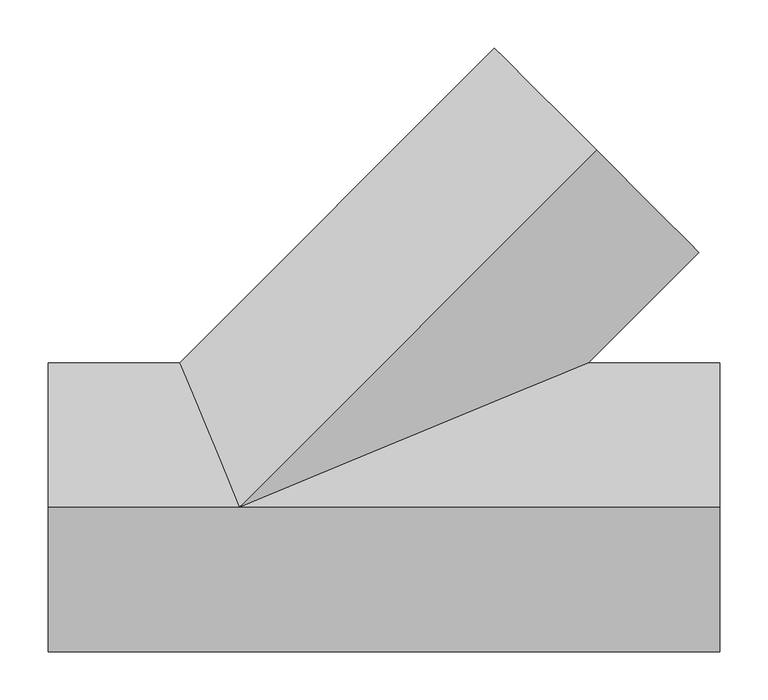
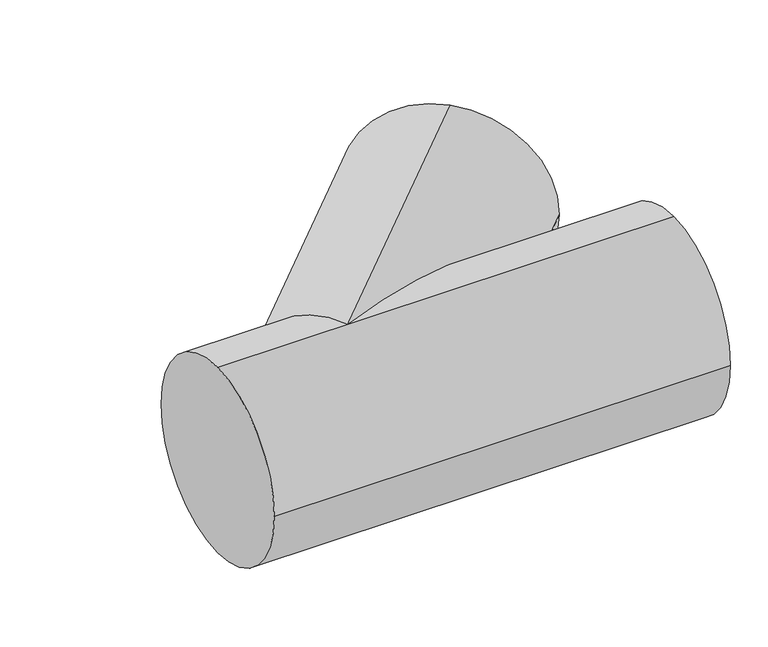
"""IFC4 building model written with IfcOpenShell, lengths in millimetres: duct fitting geometry, BL_ТройникВоздуховодов_Круглый-45 : Фланцевое соединение."""

from ifc_helpers import new_model, si_unit, frame, origin, place, context, project, spatial, circle_curve, ellipse_curve, source, transform, mapped, element, save
from ifc_brep_helpers import plane_surface, cylinder_surface, advanced_brep


def duct_fitting_f7d28258(model_context):
    return source(origin(), model_context, "Body", "AdvancedBrep", [
        advanced_brep(
        [(-348.492424, 0.0, 150.0), (-348.492424, 150.0, 0.0), (-348.492424, 0.0, -150.0), (-348.492424, -150.0, 0.0), (348.492424, 0.0, 150.0), (348.492424, -150.0, 0.0), (348.492424, 0.0, -150.0), (348.492424, 150.0, 0.0), (-150.0, 0.0, 150.0), (-150.0, 0.0, -150.0), (212.1320344, 150.0, 0.0), (-212.1320344, 150.0, 0.0), (220.7106781, 370.7106781, 150.0), (326.7766953, 264.6446609, 0.0), (220.7106781, 370.7106781, -150.0), (114.6446609, 476.7766953, 0.0)],
        [
            (0, 1, circle_curve(frame((-348.492424, 0.0, 0.0), z_axis=(-1.0, 0.0, 0.0), x_axis=(0.0, -1.0, 0.0)), 150.0)),
            (1, 2, circle_curve(frame((-348.492424, 0.0, 0.0), z_axis=(-1.0, 0.0, 0.0), x_axis=(0.0, -1.0, 0.0)), 150.0)),
            (2, 3, circle_curve(frame((-348.492424, 0.0, 0.0), z_axis=(-1.0, 0.0, 0.0), x_axis=(0.0, -1.0, 0.0)), 150.0)),
            (3, 0, circle_curve(frame((-348.492424, 0.0, 0.0), z_axis=(-1.0, 0.0, 0.0), x_axis=(0.0, -1.0, 0.0)), 150.0)),
            (4, 5, circle_curve(frame((348.492424, 0.0, 0.0), z_axis=(1.0, 0.0, 0.0), x_axis=(0.0, -1.0, 0.0)), 150.0)),
            (5, 6, circle_curve(frame((348.492424, 0.0, 0.0), z_axis=(1.0, 0.0, 0.0), x_axis=(0.0, -1.0, 0.0)), 150.0)),
            (6, 7, circle_curve(frame((348.492424, 0.0, 0.0), z_axis=(1.0, 0.0, 0.0), x_axis=(0.0, -1.0, 0.0)), 150.0)),
            (7, 4, circle_curve(frame((348.492424, 0.0, 0.0), z_axis=(1.0, 0.0, 0.0), x_axis=(0.0, -1.0, 0.0)), 150.0)),
            (3, 5),
            (4, 8),
            (8, 0),
            (2, 9),
            (9, 6),
            (9, 10, ellipse_curve(frame((-150.0, 0.0, 0.0), z_axis=(0.38268343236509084, -0.9238795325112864, 0.0), x_axis=(-0.9238795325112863, -0.3826834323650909, 0.0)), 391.9688895, 150.0)),
            (10, 7),
            (1, 11),
            (11, 9, ellipse_curve(frame((-150.0, 0.0, 0.0), z_axis=(-0.9238795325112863, -0.38268343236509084, 0.0), x_axis=(-0.38268343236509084, 0.9238795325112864, 0.0)), 162.35883, 150.0)),
            (8, 11, ellipse_curve(frame((-150.0, 0.0, 0.0), z_axis=(-0.9238795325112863, -0.38268343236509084, 0.0), x_axis=(-0.38268343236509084, 0.9238795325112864, 0.0)), 162.35883, 150.0)),
            (10, 8, ellipse_curve(frame((-150.0, 0.0, 0.0), z_axis=(0.38268343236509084, -0.9238795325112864, 0.0), x_axis=(-0.9238795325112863, -0.3826834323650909, 0.0)), 391.9688895, 150.0)),
            (12, 13, circle_curve(frame((220.7106781, 370.7106781, 0.0), z_axis=(0.7071067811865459, 0.7071067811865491, 0.0), x_axis=(0.7071067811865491, -0.7071067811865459, 0.0)), 150.0)),
            (13, 14, circle_curve(frame((220.7106781, 370.7106781, 0.0), z_axis=(0.7071067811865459, 0.7071067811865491, 0.0), x_axis=(0.7071067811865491, -0.7071067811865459, 0.0)), 150.0)),
            (14, 15, circle_curve(frame((220.7106781, 370.7106781, 0.0), z_axis=(0.7071067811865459, 0.7071067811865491, 0.0), x_axis=(0.7071067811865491, -0.7071067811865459, 0.0)), 150.0)),
            (15, 12, circle_curve(frame((220.7106781, 370.7106781, 0.0), z_axis=(0.7071067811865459, 0.7071067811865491, 0.0), x_axis=(0.7071067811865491, -0.7071067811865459, 0.0)), 150.0)),
            (12, 8),
            (10, 13),
            (9, 14),
            (11, 15),
        ],
        [
            plane_surface(frame((-348.492424, 0.0, 0.0), z_axis=(-1.0, 0.0, 0.0), x_axis=(0.0, 0.0, 1.0))),
            plane_surface(frame((348.492424, 0.0, 0.0), z_axis=(1.0, 0.0, 0.0), x_axis=(0.0, 0.0, 1.0))),
            cylinder_surface(frame((-348.492424, 0.0, 0.0), z_axis=(-1.0, 0.0, 0.0), x_axis=(0.0, -1.0, 0.0)), 150.0),
            plane_surface(frame((220.7106781, 370.7106781, 0.0), z_axis=(0.7071067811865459, 0.7071067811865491, 0.0), x_axis=(0.0, 0.0, 1.0))),
            cylinder_surface(frame((-150.0, 0.0, 0.0), z_axis=(-0.7071067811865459, -0.7071067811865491, 0.0), x_axis=(0.7071067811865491, -0.7071067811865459, 0.0)), 150.0),
        ],
        [
            (0, [[1, 2, 3, 4]]),
            (1, [[5, 6, 7, 8]]),
            (2, [[9, -5, 10, 11, -4]]),
            (2, [[12, 13, -6, -9, -3]]),
            (2, [[-13, 14, 15, -7]]),
            (2, [[16, 17, -12, -2]]),
            (2, [[-11, 18, -16, -1]]),
            (2, [[-15, 19, -10, -8]]),
            (3, [[20, 21, 22, 23]]),
            (4, [[24, -19, 25, -20]]),
            (4, [[-25, -14, 26, -21]]),
            (4, [[-26, -17, 27, -22]]),
            (4, [[-27, -18, -24, -23]]),
        ],
    ),
    ])


if __name__ == "__main__":
    model = new_model("IFC4")
    model_context = context("Model", 3, world=origin())
    ifc_project = project(units=[si_unit("LENGTHUNIT", "METRE", prefix="MILLI")], contexts=[model_context])
    site = spatial("IfcSite", under=ifc_project)
    building = spatial("IfcBuilding", under=site)
    placement = place(None, origin())
    duct_fitting_shape = duct_fitting_f7d28258(model_context)
    element("IfcDuctFitting", 1, ObjectType="BL_ТройникВоздуховодов_Круглый-45 : Фланцевое соединение", at=placement, inside=building, context=model_context, shape_type="MappedRepresentation", body=[
        mapped(duct_fitting_shape, transform((0.0, 0.0, 0.0), x_axis=(1.0, 0.0, 0.0), y_axis=(0.0, 1.0, 0.0), z_axis=(0.0, 0.0, 1.0))),
    ])
    save(model, "model.ifc")
